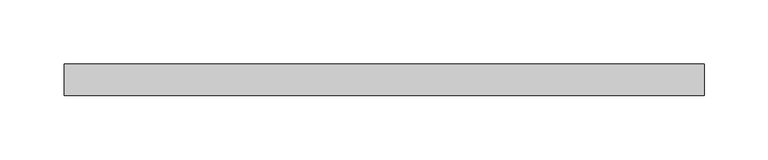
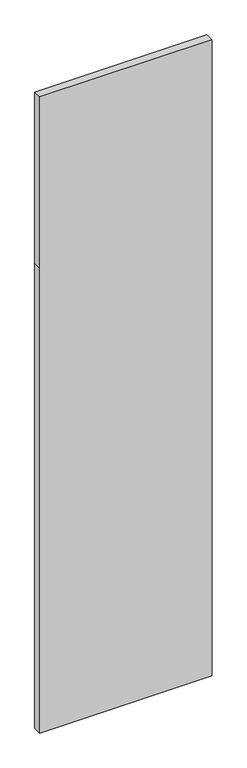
"""IFC4 building model written with IfcOpenShell, lengths in millimetres: plate geometry, Системная панель : ADSK_Cтеклопакет_25 мм."""

from ifc_helpers import new_model, si_unit, frame, origin, place, context, project, spatial, polyline, outline, extrude, source, transform, mapped, element, save


def plate_42e33a89(model_context):
    return source(origin(), model_context, "Body", "SweptSolid", [
        extrude(outline(polyline([(0.0, -250.0), (0.0, 250.0), (1425.0, 250.0), (1950.0, 250.0), (1950.0, -250.0), (1425.0, -250.0), (0.0, -250.0)])), frame((0.0, -12.5, 0.0), z_axis=(0.0, 1.0, 0.0), x_axis=(0.0, 0.0, 1.0)), (0.0, 0.0, 1.0), 25.0),
    ])


if __name__ == "__main__":
    model = new_model("IFC4")
    model_context = context("Model", 3, world=origin())
    ifc_project = project(units=[si_unit("LENGTHUNIT", "METRE", prefix="MILLI")], contexts=[model_context])
    site = spatial("IfcSite", under=ifc_project)
    building = spatial("IfcBuilding", under=site)
    placement = place(None, origin())
    plate_shape = plate_42e33a89(model_context)
    element("IfcPlate", 1, ObjectType="Системная панель : ADSK_Cтеклопакет_25 мм", at=placement, inside=building, context=model_context, shape_type="MappedRepresentation", body=[
        mapped(plate_shape, transform((0.0, 0.0, 0.0), x_axis=(1.0, 0.0, 0.0), y_axis=(0.0, 1.0, 0.0), z_axis=(0.0, 0.0, 1.0))),
    ])
    save(model, "model.ifc")
